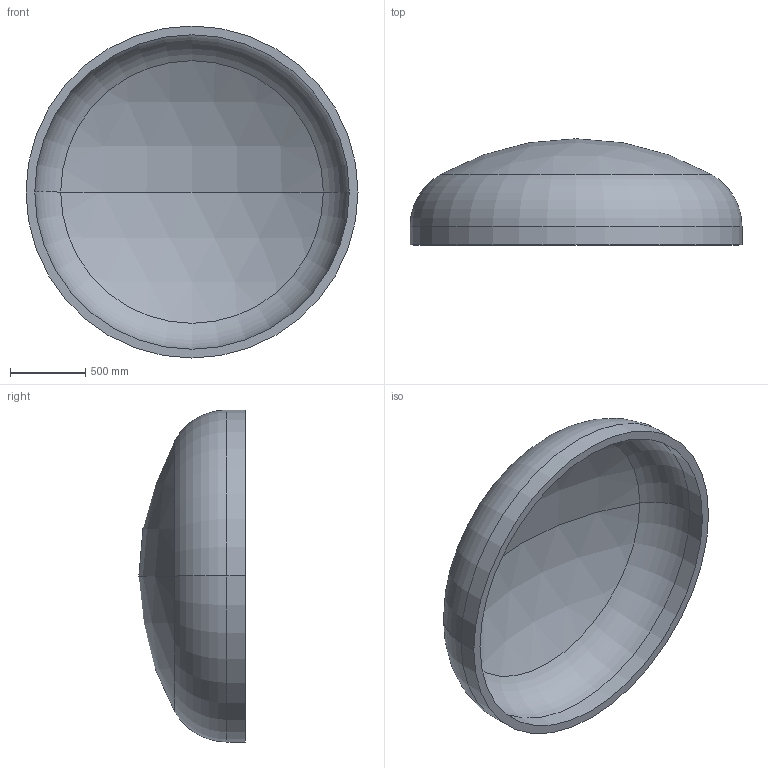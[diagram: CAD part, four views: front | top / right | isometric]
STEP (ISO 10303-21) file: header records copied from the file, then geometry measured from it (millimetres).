
FILE_DESCRIPTION (( 'STEP AP203' ), '1' );
FILE_NAME ('DIN 28013 Korbbogenform_-_Boden DIN 28013 - 2200 x 120 - I - s=58.step', '2016-07-01T14:42:45', ( '' ), ( '' ), 'SwSTEP 2.0', 'SolidWorks 2013', '' );
FILE_SCHEMA (( 'CONFIG_CONTROL_DESIGN' ));
Length unit declared in the file: millimetre
Products named in the file (1): DIN 28013 Korbbogenform_-_Boden DIN 28013 - 2200 x 120 - I - s=58
Bounding box: 2200 x 703.66 x 2200 mm (x, y, z)
Volume: 342034683.5 mm3; surface area: 12191640.2 mm2
Topology: 1 solids, 1 shells, 13 faces, 24 edges, 14 vertices
Faces by surface type: torus 4, cylinder 4, sphere 4, plane 1
Entity records: 407 total; most frequent: DIRECTION 72, CARTESIAN_POINT 52, ORIENTED_EDGE 48, AXIS2_PLACEMENT_3D 34, EDGE_CURVE 24, CIRCLE 20, EDGE_LOOP 14, VERTEX_POINT 14
